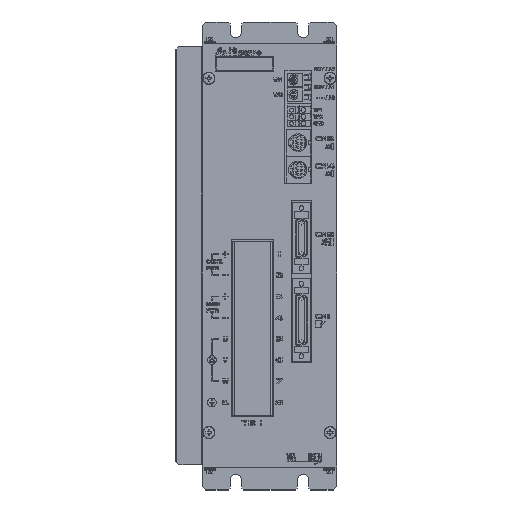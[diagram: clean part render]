
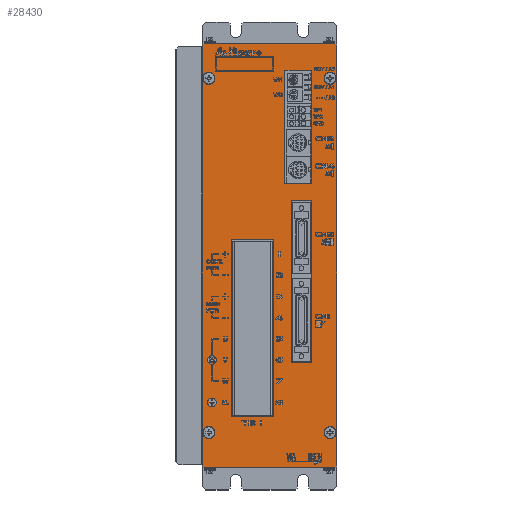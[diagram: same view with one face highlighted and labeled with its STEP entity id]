
A CAD part, top view. The second image highlights one B-rep face of the part: STEP entity #28430.
In plain terms, the highlighted planar face has unit normal (0, 0, 1).
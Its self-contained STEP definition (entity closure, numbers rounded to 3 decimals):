
#28177=CARTESIAN_POINT('',(0.021,-0.024,177.45));
#28178=DIRECTION('',(0.,0.,1.));
#28179=DIRECTION('',(1.,0.,0.));
#28180=AXIS2_PLACEMENT_3D('',#28177,#28178,#28179);
#28181=PLANE('',#28180);
#28182=CARTESIAN_POINT('',(11.321,-45.224,177.45));
#28183=VERTEX_POINT('',#28182);
#28184=CARTESIAN_POINT('',(11.321,38.776,177.45));
#28185=VERTEX_POINT('',#28184);
#28186=CARTESIAN_POINT('',(11.321,-45.224,177.45));
#28187=DIRECTION('',(0.,1.,0.));
#28188=VECTOR('',#28187,84.);
#28189=LINE('',#28186,#28188);
#28190=EDGE_CURVE('',#28183,#28185,#28189,.T.);
#28191=ORIENTED_EDGE('',*,*,#28190,.T.);
#28192=CARTESIAN_POINT('',(21.921,38.776,177.45));
#28193=VERTEX_POINT('',#28192);
#28194=CARTESIAN_POINT('',(11.321,38.776,177.45));
#28195=DIRECTION('',(1.,0.,-0.));
#28196=VECTOR('',#28195,10.6);
#28197=LINE('',#28194,#28196);
#28198=EDGE_CURVE('',#28185,#28193,#28197,.T.);
#28199=ORIENTED_EDGE('',*,*,#28198,.T.);
#28200=CARTESIAN_POINT('',(21.921,-45.224,177.45));
#28201=VERTEX_POINT('',#28200);
#28202=CARTESIAN_POINT('',(21.921,38.776,177.45));
#28203=DIRECTION('',(0.,-1.,0.));
#28204=VECTOR('',#28203,84.);
#28205=LINE('',#28202,#28204);
#28206=EDGE_CURVE('',#28193,#28201,#28205,.T.);
#28207=ORIENTED_EDGE('',*,*,#28206,.T.);
#28208=CARTESIAN_POINT('',(21.921,-45.224,177.45));
#28209=DIRECTION('',(-1.,0.,0.));
#28210=VECTOR('',#28209,10.6);
#28211=LINE('',#28208,#28210);
#28212=EDGE_CURVE('',#28201,#28183,#28211,.T.);
#28213=ORIENTED_EDGE('',*,*,#28212,.T.);
#28214=EDGE_LOOP('',(#28191,#28199,#28207,#28213));
#28215=FACE_BOUND('',#28214,.T.);
#28216=CARTESIAN_POINT('',(-19.879,-73.324,177.45));
#28217=VERTEX_POINT('',#28216);
#28218=CARTESIAN_POINT('',(-19.879,18.676,177.45));
#28219=VERTEX_POINT('',#28218);
#28220=CARTESIAN_POINT('',(-19.879,-73.324,177.45));
#28221=DIRECTION('',(0.,1.,0.));
#28222=VECTOR('',#28221,92.);
#28223=LINE('',#28220,#28222);
#28224=EDGE_CURVE('',#28217,#28219,#28223,.T.);
#28225=ORIENTED_EDGE('',*,*,#28224,.T.);
#28226=CARTESIAN_POINT('',(2.121,18.676,177.45));
#28227=VERTEX_POINT('',#28226);
#28228=CARTESIAN_POINT('',(-19.879,18.676,177.45));
#28229=DIRECTION('',(1.,0.,-0.));
#28230=VECTOR('',#28229,22.);
#28231=LINE('',#28228,#28230);
#28232=EDGE_CURVE('',#28219,#28227,#28231,.T.);
#28233=ORIENTED_EDGE('',*,*,#28232,.T.);
#28234=CARTESIAN_POINT('',(2.121,-73.324,177.45));
#28235=VERTEX_POINT('',#28234);
#28236=CARTESIAN_POINT('',(2.121,18.676,177.45));
#28237=DIRECTION('',(0.,-1.,0.));
#28238=VECTOR('',#28237,92.);
#28239=LINE('',#28236,#28238);
#28240=EDGE_CURVE('',#28227,#28235,#28239,.T.);
#28241=ORIENTED_EDGE('',*,*,#28240,.T.);
#28242=CARTESIAN_POINT('',(2.121,-73.324,177.45));
#28243=DIRECTION('',(-1.,0.,0.));
#28244=VECTOR('',#28243,22.);
#28245=LINE('',#28242,#28244);
#28246=EDGE_CURVE('',#28235,#28217,#28245,.T.);
#28247=ORIENTED_EDGE('',*,*,#28246,.T.);
#28248=EDGE_LOOP('',(#28225,#28233,#28241,#28247));
#28249=FACE_BOUND('',#28248,.T.);
#28250=CARTESIAN_POINT('',(29.771,-81.524,177.45));
#28251=VERTEX_POINT('',#28250);
#28252=CARTESIAN_POINT('',(33.271,-81.524,177.45));
#28253=VERTEX_POINT('',#28252);
#28254=CARTESIAN_POINT('',(31.521,-81.524,177.45));
#28255=DIRECTION('',(0.,0.,1.));
#28256=DIRECTION('',(1.,0.,-0.));
#28257=AXIS2_PLACEMENT_3D('',#28254,#28255,#28256);
#28258=CIRCLE('',#28257,1.75);
#28259=EDGE_CURVE('',#28251,#28253,#28258,.T.);
#28260=ORIENTED_EDGE('',*,*,#28259,.F.);
#28261=CARTESIAN_POINT('',(31.521,-81.524,177.45));
#28262=DIRECTION('',(0.,0.,1.));
#28263=DIRECTION('',(1.,0.,-0.));
#28264=AXIS2_PLACEMENT_3D('',#28261,#28262,#28263);
#28265=CIRCLE('',#28264,1.75);
#28266=EDGE_CURVE('',#28253,#28251,#28265,.T.);
#28267=ORIENTED_EDGE('',*,*,#28266,.F.);
#28268=EDGE_LOOP('',(#28260,#28267));
#28269=FACE_BOUND('',#28268,.T.);
#28270=CARTESIAN_POINT('',(-33.229,-81.524,177.45));
#28271=VERTEX_POINT('',#28270);
#28272=CARTESIAN_POINT('',(-29.729,-81.524,177.45));
#28273=VERTEX_POINT('',#28272);
#28274=CARTESIAN_POINT('',(-31.479,-81.524,177.45));
#28275=DIRECTION('',(0.,0.,1.));
#28276=DIRECTION('',(1.,0.,-0.));
#28277=AXIS2_PLACEMENT_3D('',#28274,#28275,#28276);
#28278=CIRCLE('',#28277,1.75);
#28279=EDGE_CURVE('',#28271,#28273,#28278,.T.);
#28280=ORIENTED_EDGE('',*,*,#28279,.F.);
#28281=CARTESIAN_POINT('',(-31.479,-81.524,177.45));
#28282=DIRECTION('',(0.,0.,1.));
#28283=DIRECTION('',(1.,0.,-0.));
#28284=AXIS2_PLACEMENT_3D('',#28281,#28282,#28283);
#28285=CIRCLE('',#28284,1.75);
#28286=EDGE_CURVE('',#28273,#28271,#28285,.T.);
#28287=ORIENTED_EDGE('',*,*,#28286,.F.);
#28288=EDGE_LOOP('',(#28280,#28287));
#28289=FACE_BOUND('',#28288,.T.);
#28290=CARTESIAN_POINT('',(8.021,47.776,177.45));
#28291=VERTEX_POINT('',#28290);
#28292=CARTESIAN_POINT('',(8.021,106.776,177.45));
#28293=VERTEX_POINT('',#28292);
#28294=CARTESIAN_POINT('',(8.021,47.776,177.45));
#28295=DIRECTION('',(0.,1.,0.));
#28296=VECTOR('',#28295,59.);
#28297=LINE('',#28294,#28296);
#28298=EDGE_CURVE('',#28291,#28293,#28297,.T.);
#28299=ORIENTED_EDGE('',*,*,#28298,.T.);
#28300=CARTESIAN_POINT('',(22.021,106.776,177.45));
#28301=VERTEX_POINT('',#28300);
#28302=CARTESIAN_POINT('',(8.021,106.776,177.45));
#28303=DIRECTION('',(1.,0.,-0.));
#28304=VECTOR('',#28303,14.);
#28305=LINE('',#28302,#28304);
#28306=EDGE_CURVE('',#28293,#28301,#28305,.T.);
#28307=ORIENTED_EDGE('',*,*,#28306,.T.);
#28308=CARTESIAN_POINT('',(22.021,47.776,177.45));
#28309=VERTEX_POINT('',#28308);
#28310=CARTESIAN_POINT('',(22.021,106.776,177.45));
#28311=DIRECTION('',(0.,-1.,0.));
#28312=VECTOR('',#28311,59.);
#28313=LINE('',#28310,#28312);
#28314=EDGE_CURVE('',#28301,#28309,#28313,.T.);
#28315=ORIENTED_EDGE('',*,*,#28314,.T.);
#28316=CARTESIAN_POINT('',(22.021,47.776,177.45));
#28317=DIRECTION('',(-1.,0.,0.));
#28318=VECTOR('',#28317,14.);
#28319=LINE('',#28316,#28318);
#28320=EDGE_CURVE('',#28309,#28291,#28319,.T.);
#28321=ORIENTED_EDGE('',*,*,#28320,.T.);
#28322=EDGE_LOOP('',(#28299,#28307,#28315,#28321));
#28323=FACE_BOUND('',#28322,.T.);
#28324=CARTESIAN_POINT('',(34.021,120.476,177.45));
#28325=VERTEX_POINT('',#28324);
#28326=CARTESIAN_POINT('',(35.021,119.476,177.45));
#28327=VERTEX_POINT('',#28326);
#28328=CARTESIAN_POINT('',(34.021,120.476,177.45));
#28329=DIRECTION('',(0.707,-0.707,0.));
#28330=VECTOR('',#28329,1.414);
#28331=LINE('',#28328,#28330);
#28332=EDGE_CURVE('',#28325,#28327,#28331,.T.);
#28333=ORIENTED_EDGE('',*,*,#28332,.F.);
#28334=CARTESIAN_POINT('',(-33.979,120.476,177.45));
#28335=VERTEX_POINT('',#28334);
#28336=CARTESIAN_POINT('',(-33.979,120.476,177.45));
#28337=DIRECTION('',(1.,0.,-0.));
#28338=VECTOR('',#28337,68.);
#28339=LINE('',#28336,#28338);
#28340=EDGE_CURVE('',#28335,#28325,#28339,.T.);
#28341=ORIENTED_EDGE('',*,*,#28340,.F.);
#28342=CARTESIAN_POINT('',(-34.979,119.476,177.45));
#28343=VERTEX_POINT('',#28342);
#28344=CARTESIAN_POINT('',(-34.979,119.476,177.45));
#28345=DIRECTION('',(0.707,0.707,0.));
#28346=VECTOR('',#28345,1.414);
#28347=LINE('',#28344,#28346);
#28348=EDGE_CURVE('',#28343,#28335,#28347,.T.);
#28349=ORIENTED_EDGE('',*,*,#28348,.F.);
#28350=CARTESIAN_POINT('',(-34.979,-98.524,177.45));
#28351=VERTEX_POINT('',#28350);
#28352=CARTESIAN_POINT('',(-34.979,-98.524,177.45));
#28353=DIRECTION('',(0.,1.,0.));
#28354=VECTOR('',#28353,218.);
#28355=LINE('',#28352,#28354);
#28356=EDGE_CURVE('',#28351,#28343,#28355,.T.);
#28357=ORIENTED_EDGE('',*,*,#28356,.F.);
#28358=CARTESIAN_POINT('',(-33.979,-99.524,177.45));
#28359=VERTEX_POINT('',#28358);
#28360=CARTESIAN_POINT('',(-33.979,-99.524,177.45));
#28361=DIRECTION('',(-0.707,0.707,0.));
#28362=VECTOR('',#28361,1.414);
#28363=LINE('',#28360,#28362);
#28364=EDGE_CURVE('',#28359,#28351,#28363,.T.);
#28365=ORIENTED_EDGE('',*,*,#28364,.F.);
#28366=CARTESIAN_POINT('',(34.021,-99.524,177.45));
#28367=VERTEX_POINT('',#28366);
#28368=CARTESIAN_POINT('',(34.021,-99.524,177.45));
#28369=DIRECTION('',(-1.,0.,0.));
#28370=VECTOR('',#28369,68.);
#28371=LINE('',#28368,#28370);
#28372=EDGE_CURVE('',#28367,#28359,#28371,.T.);
#28373=ORIENTED_EDGE('',*,*,#28372,.F.);
#28374=CARTESIAN_POINT('',(35.021,-98.524,177.45));
#28375=VERTEX_POINT('',#28374);
#28376=CARTESIAN_POINT('',(35.021,-98.524,177.45));
#28377=DIRECTION('',(-0.707,-0.707,0.));
#28378=VECTOR('',#28377,1.414);
#28379=LINE('',#28376,#28378);
#28380=EDGE_CURVE('',#28375,#28367,#28379,.T.);
#28381=ORIENTED_EDGE('',*,*,#28380,.F.);
#28382=CARTESIAN_POINT('',(35.021,119.476,177.45));
#28383=DIRECTION('',(0.,-1.,0.));
#28384=VECTOR('',#28383,218.);
#28385=LINE('',#28382,#28384);
#28386=EDGE_CURVE('',#28327,#28375,#28385,.T.);
#28387=ORIENTED_EDGE('',*,*,#28386,.F.);
#28388=EDGE_LOOP('',(#28333,#28341,#28349,#28357,#28365,#28373,#28381,#28387));
#28389=FACE_BOUND('',#28388,.T.);
#28390=CARTESIAN_POINT('',(-33.229,102.476,177.45));
#28391=VERTEX_POINT('',#28390);
#28392=CARTESIAN_POINT('',(-29.729,102.476,177.45));
#28393=VERTEX_POINT('',#28392);
#28394=CARTESIAN_POINT('',(-31.479,102.476,177.45));
#28395=DIRECTION('',(0.,0.,1.));
#28396=DIRECTION('',(1.,0.,-0.));
#28397=AXIS2_PLACEMENT_3D('',#28394,#28395,#28396);
#28398=CIRCLE('',#28397,1.75);
#28399=EDGE_CURVE('',#28391,#28393,#28398,.T.);
#28400=ORIENTED_EDGE('',*,*,#28399,.F.);
#28401=CARTESIAN_POINT('',(-31.479,102.476,177.45));
#28402=DIRECTION('',(0.,0.,1.));
#28403=DIRECTION('',(1.,0.,-0.));
#28404=AXIS2_PLACEMENT_3D('',#28401,#28402,#28403);
#28405=CIRCLE('',#28404,1.75);
#28406=EDGE_CURVE('',#28393,#28391,#28405,.T.);
#28407=ORIENTED_EDGE('',*,*,#28406,.F.);
#28408=EDGE_LOOP('',(#28400,#28407));
#28409=FACE_BOUND('',#28408,.T.);
#28410=CARTESIAN_POINT('',(29.771,102.476,177.45));
#28411=VERTEX_POINT('',#28410);
#28412=CARTESIAN_POINT('',(33.271,102.476,177.45));
#28413=VERTEX_POINT('',#28412);
#28414=CARTESIAN_POINT('',(31.521,102.476,177.45));
#28415=DIRECTION('',(0.,0.,1.));
#28416=DIRECTION('',(1.,0.,-0.));
#28417=AXIS2_PLACEMENT_3D('',#28414,#28415,#28416);
#28418=CIRCLE('',#28417,1.75);
#28419=EDGE_CURVE('',#28411,#28413,#28418,.T.);
#28420=ORIENTED_EDGE('',*,*,#28419,.F.);
#28421=CARTESIAN_POINT('',(31.521,102.476,177.45));
#28422=DIRECTION('',(0.,0.,1.));
#28423=DIRECTION('',(1.,0.,-0.));
#28424=AXIS2_PLACEMENT_3D('',#28421,#28422,#28423);
#28425=CIRCLE('',#28424,1.75);
#28426=EDGE_CURVE('',#28413,#28411,#28425,.T.);
#28427=ORIENTED_EDGE('',*,*,#28426,.F.);
#28428=EDGE_LOOP('',(#28420,#28427));
#28429=FACE_BOUND('',#28428,.T.);
#28430=ADVANCED_FACE('',(#28215,#28249,#28269,#28289,#28323,#28389,#28409,#28429),#28181,.T.);
